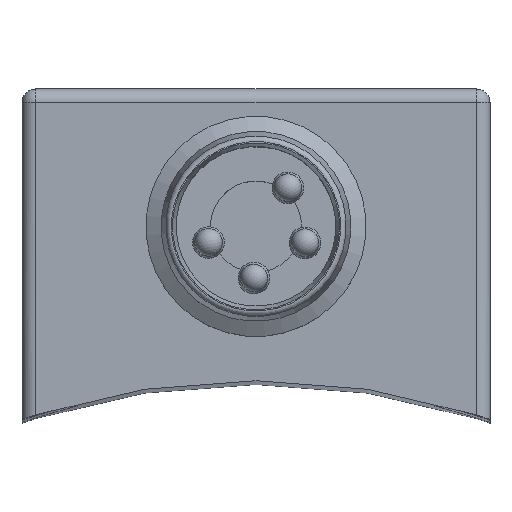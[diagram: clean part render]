
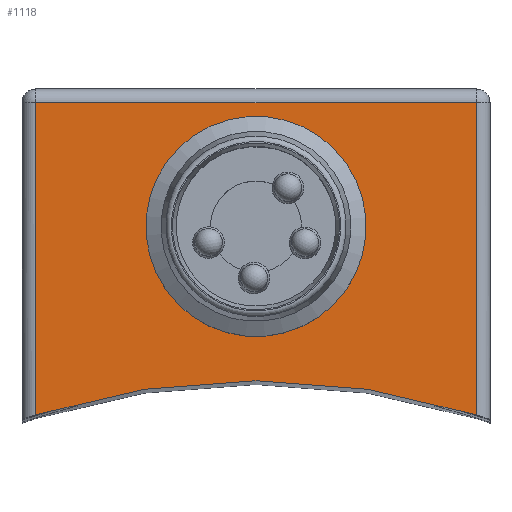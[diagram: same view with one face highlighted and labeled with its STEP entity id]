
A CAD part, top view. The second image highlights one B-rep face of the part: STEP entity #1118.
In plain terms, the highlighted planar face has unit normal (0, 0, 1).
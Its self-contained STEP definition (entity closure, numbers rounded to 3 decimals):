
#1060=CARTESIAN_POINT('',(11.174,8.848,0.));
#1061=VERTEX_POINT('',#1060);
#1062=CARTESIAN_POINT('',(8.5,7.,0.));
#1063=DIRECTION('',(0.,0.,-1.));
#1064=DIRECTION('',(0.823,0.568,0.));
#1065=AXIS2_PLACEMENT_3D('',#1062,#1063,#1064);
#1066=CIRCLE('',#1065,3.25);
#1067=EDGE_CURVE('',#1061,#1061,#1066,.T.);
#1075=CARTESIAN_POINT('',(8.5,6.217,0.0));
#1076=DIRECTION('',(0.0,0.0,1.0));
#1077=DIRECTION('',(1.0,0.0,0.0));
#1078=AXIS2_PLACEMENT_3D('',#1075,#1076,#1077);
#1079=PLANE('',#1078);
#1080=CARTESIAN_POINT('',(0.5,0.164,0.0));
#1081=VERTEX_POINT('',#1080);
#1082=CARTESIAN_POINT('',(0.5,11.5,0.0));
#1083=VERTEX_POINT('',#1082);
#1084=CARTESIAN_POINT('',(0.5,0.164,0.0));
#1085=DIRECTION('',(0.0,1.0,0.0));
#1086=VECTOR('',#1085,11.336);
#1087=LINE('',#1084,#1086);
#1088=EDGE_CURVE('',#1081,#1083,#1087,.T.);
#1089=ORIENTED_EDGE('',*,*,#1088,.F.);
#1090=CARTESIAN_POINT('',(16.5,0.164,0.0));
#1091=VERTEX_POINT('',#1090);
#1092=CARTESIAN_POINT('',(8.5,-25.104,0.0));
#1093=DIRECTION('',(0.0,0.0,1.));
#1094=DIRECTION('',(0.321,0.947,0.0));
#1095=AXIS2_PLACEMENT_3D('',#1092,#1093,#1094);
#1096=CIRCLE('',#1095,26.504);
#1097=EDGE_CURVE('',#1091,#1081,#1096,.T.);
#1098=ORIENTED_EDGE('',*,*,#1097,.F.);
#1099=CARTESIAN_POINT('',(16.5,11.5,0.0));
#1100=VERTEX_POINT('',#1099);
#1101=CARTESIAN_POINT('',(16.5,11.5,0.0));
#1102=DIRECTION('',(0.0,-1.0,0.0));
#1103=VECTOR('',#1102,11.336);
#1104=LINE('',#1101,#1103);
#1105=EDGE_CURVE('',#1100,#1091,#1104,.T.);
#1106=ORIENTED_EDGE('',*,*,#1105,.F.);
#1107=CARTESIAN_POINT('',(0.5,11.5,0.0));
#1108=DIRECTION('',(1.0,0.0,0.0));
#1109=VECTOR('',#1108,16.);
#1110=LINE('',#1107,#1109);
#1111=EDGE_CURVE('',#1083,#1100,#1110,.T.);
#1112=ORIENTED_EDGE('',*,*,#1111,.F.);
#1113=EDGE_LOOP('',(#1089,#1098,#1106,#1112));
#1114=FACE_OUTER_BOUND('',#1113,.T.);
#1115=ORIENTED_EDGE('',*,*,#1067,.T.);
#1116=EDGE_LOOP('',(#1115));
#1117=FACE_BOUND('',#1116,.T.);
#1118=ADVANCED_FACE('',(#1114,#1117),#1079,.T.);
